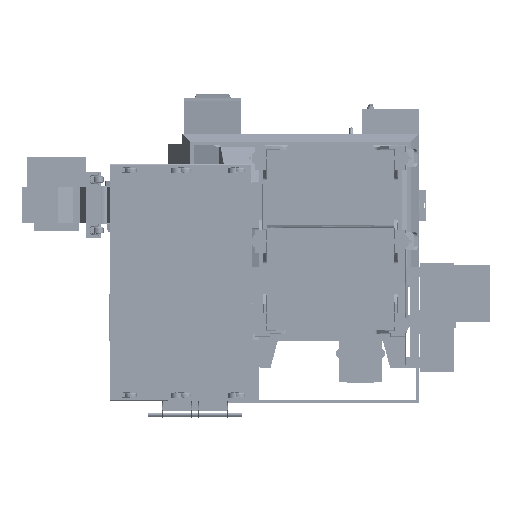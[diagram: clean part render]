
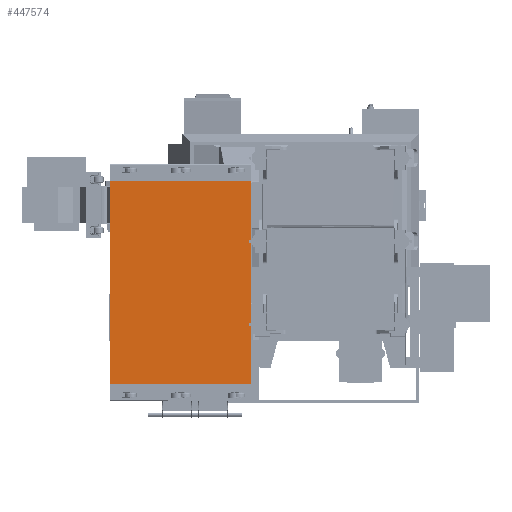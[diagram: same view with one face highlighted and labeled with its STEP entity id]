
A CAD part, front view. The second image highlights one B-rep face of the part: STEP entity #447574.
In plain terms, the highlighted planar face has unit normal (0, -1, 0).
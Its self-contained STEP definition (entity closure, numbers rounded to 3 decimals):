
#8524 = CARTESIAN_POINT ( 'NONE',  ( -26.278, -35.055, -38.734 ) ) ;
#27886 = VECTOR ( 'NONE', #245384, 39.37 ) ;
#34033 = LINE ( 'NONE', #250746, #392258 ) ;
#54978 = ORIENTED_EDGE ( 'NONE', *, *, #216243, .T. ) ;
#67052 = VERTEX_POINT ( 'NONE', #459503 ) ;
#75801 = CARTESIAN_POINT ( 'NONE',  ( -151.448, -35.055, 28.366 ) ) ;
#77639 = DIRECTION ( 'NONE',  ( 0., 0., -1. ) ) ;
#81330 = VERTEX_POINT ( 'NONE', #270596 ) ;
#86204 = LINE ( 'NONE', #375447, #413571 ) ;
#101865 = VERTEX_POINT ( 'NONE', #207897 ) ;
#106761 = DIRECTION ( 'NONE',  ( -1., 0., 0. ) ) ;
#114599 = CARTESIAN_POINT ( 'NONE',  ( -26.378, -35.055, 28.366 ) ) ;
#122072 = CARTESIAN_POINT ( 'NONE',  ( -26.278, -35.055, -38.734 ) ) ;
#126022 = VERTEX_POINT ( 'NONE', #8524 ) ;
#131254 = VERTEX_POINT ( 'NONE', #380248 ) ;
#160388 = ORIENTED_EDGE ( 'NONE', *, *, #257952, .F. ) ;
#177037 = DIRECTION ( 'NONE',  ( 1., 0., 0. ) ) ;
#189438 = VERTEX_POINT ( 'NONE', #114599 ) ;
#195171 = DIRECTION ( 'NONE',  ( 0., -1., 0. ) ) ;
#198349 = VECTOR ( 'NONE', #391250, 39.37 ) ;
#198490 = ORIENTED_EDGE ( 'NONE', *, *, #343712, .T. ) ;
#207897 = CARTESIAN_POINT ( 'NONE',  ( -26.278, -35.055, 28.366 ) ) ;
#216026 = LINE ( 'NONE', #343884, #251368 ) ;
#216243 = EDGE_CURVE ( 'NONE', #131254, #533251, #86204, .T. ) ;
#228917 = EDGE_CURVE ( 'NONE', #189438, #101865, #427640, .T. ) ;
#234218 = ORIENTED_EDGE ( 'NONE', *, *, #228917, .F. ) ;
#245384 = DIRECTION ( 'NONE',  ( 1., 0., 0. ) ) ;
#250746 = CARTESIAN_POINT ( 'NONE',  ( -151.448, -35.055, 28.366 ) ) ;
#251368 = VECTOR ( 'NONE', #177037, 39.37 ) ;
#251856 = EDGE_CURVE ( 'NONE', #101865, #126022, #541859, .T. ) ;
#257952 = EDGE_CURVE ( 'NONE', #131254, #348106, #438388, .T. ) ;
#270596 = CARTESIAN_POINT ( 'NONE',  ( -26.378, -35.055, -38.734 ) ) ;
#295166 = DIRECTION ( 'NONE',  ( 1., 0., 0. ) ) ;
#312064 = PLANE ( 'NONE',  #546818 ) ;
#320756 = LINE ( 'NONE', #359771, #354777 ) ;
#337349 = VECTOR ( 'NONE', #77639, 39.37 ) ;
#341736 = EDGE_CURVE ( 'NONE', #67052, #189438, #34033, .T. ) ;
#343712 = EDGE_CURVE ( 'NONE', #81330, #126022, #216026, .T. ) ;
#343884 = CARTESIAN_POINT ( 'NONE',  ( -151.448, -35.055, -38.734 ) ) ;
#344662 = DIRECTION ( 'NONE',  ( 1., 0., 0. ) ) ;
#345137 = CARTESIAN_POINT ( 'NONE',  ( -72.988, -35.055, 28.366 ) ) ;
#348106 = VERTEX_POINT ( 'NONE', #345137 ) ;
#349294 = ORIENTED_EDGE ( 'NONE', *, *, #521461, .F. ) ;
#354777 = VECTOR ( 'NONE', #106761, 39.37 ) ;
#359771 = CARTESIAN_POINT ( 'NONE',  ( -26.378, -35.055, -38.734 ) ) ;
#360514 = CARTESIAN_POINT ( 'NONE',  ( -72.988, -35.055, -38.734 ) ) ;
#371900 = CARTESIAN_POINT ( 'NONE',  ( -72.888, -35.055, -38.734 ) ) ;
#375447 = CARTESIAN_POINT ( 'NONE',  ( -151.448, -35.055, -38.734 ) ) ;
#378801 = EDGE_CURVE ( 'NONE', #348106, #67052, #503805, .T. ) ;
#380248 = CARTESIAN_POINT ( 'NONE',  ( -72.988, -35.055, -38.734 ) ) ;
#391250 = DIRECTION ( 'NONE',  ( 0., 0., 1. ) ) ;
#392258 = VECTOR ( 'NONE', #295166, 39.37 ) ;
#403724 = CARTESIAN_POINT ( 'NONE',  ( -151.448, -35.055, -38.734 ) ) ;
#410113 = EDGE_LOOP ( 'NONE', ( #160388, #54978, #349294, #198490, #431290, #234218, #479398, #524389 ) ) ;
#413571 = VECTOR ( 'NONE', #344662, 39.37 ) ;
#419445 = CARTESIAN_POINT ( 'NONE',  ( -151.448, -35.055, 28.366 ) ) ;
#427640 = LINE ( 'NONE', #419445, #515632 ) ;
#431290 = ORIENTED_EDGE ( 'NONE', *, *, #251856, .F. ) ;
#438388 = LINE ( 'NONE', #360514, #198349 ) ;
#442632 = FACE_OUTER_BOUND ( 'NONE', #410113, .T. ) ;
#447574 = ADVANCED_FACE ( 'NONE', ( #442632 ), #312064, .T. ) ;
#459503 = CARTESIAN_POINT ( 'NONE',  ( -72.888, -35.055, 28.366 ) ) ;
#479398 = ORIENTED_EDGE ( 'NONE', *, *, #341736, .F. ) ;
#503805 = LINE ( 'NONE', #75801, #27886 ) ;
#513750 = DIRECTION ( 'NONE',  ( 1., 0., 0. ) ) ;
#515632 = VECTOR ( 'NONE', #513750, 39.37 ) ;
#521461 = EDGE_CURVE ( 'NONE', #81330, #533251, #320756, .T. ) ;
#524389 = ORIENTED_EDGE ( 'NONE', *, *, #378801, .F. ) ;
#533251 = VERTEX_POINT ( 'NONE', #371900 ) ;
#534242 = DIRECTION ( 'NONE',  ( 0., 0., -1. ) ) ;
#541859 = LINE ( 'NONE', #122072, #337349 ) ;
#546818 = AXIS2_PLACEMENT_3D ( 'NONE', #403724, #195171, #534242 ) ;
